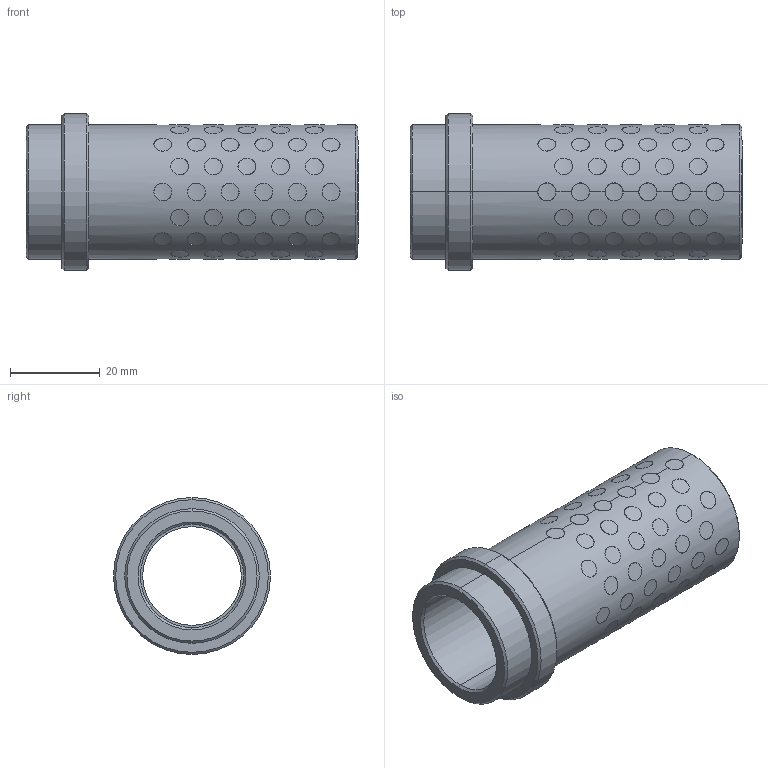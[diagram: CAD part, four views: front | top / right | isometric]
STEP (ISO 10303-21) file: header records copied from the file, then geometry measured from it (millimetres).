
FILE_DESCRIPTION((''),'2;1');
FILE_NAME('G31222066','2017-12-30T',('MANU'),(''),'PRO/ENGINEER BY PARAMETRIC TECHNOLOGY CORPORATION, 2012130','PRO/ENGINEER BY PARAMETRIC TECHNOLOGY CORPORATION, 2012130','');
FILE_SCHEMA(('CONFIG_CONTROL_DESIGN'));
Length unit declared in the file: millimetre
Products named in the file (1): G31222066
Bounding box: 74 x 35 x 35 mm (x, y, z)
Volume: 24611.2 mm3; surface area: 22056.6 mm2
Topology: 89 solids, 89 shells, 555 faces, 1182 edges, 784 vertices
Faces by surface type: cylinder 538, cone 12, plane 5
Entity records: 26082 total; most frequent: CARTESIAN_POINT 15257, ORIENTED_EDGE 2364, DIRECTION 1572, EDGE_CURVE 1182, VERTEX_POINT 784, B_SPLINE_CURVE_WITH_KNOTS 752, EDGE_LOOP 712, AXIS2_PLACEMENT_3D 587
